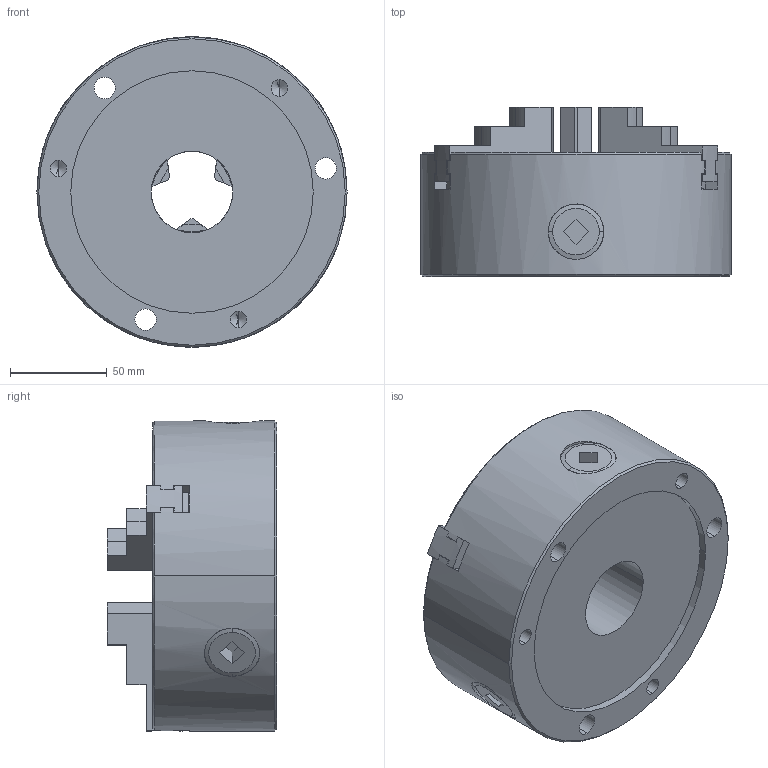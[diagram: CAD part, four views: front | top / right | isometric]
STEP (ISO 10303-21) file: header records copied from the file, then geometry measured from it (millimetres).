
FILE_DESCRIPTION (( 'STEP AP203' ), '1' );
FILE_NAME ('IUGO160-Spannfutter.STEP', '2019-09-10T14:21:20', ( '' ), ( '' ), 'SwSTEP 2.0', 'SolidWorks 2019', '' );
FILE_SCHEMA (( 'CONFIG_CONTROL_DESIGN' ));
Length unit declared in the file: millimetre
Products named in the file (3): Spannbacken_IUGO160; IUGO160-Spannfutter; Grundkörpur_IUGO160
Assembly tree (4 placements, depth 2):
  IUGO160-Spannfutter
    Grundkörpur_IUGO160
    Spannbacken_IUGO160  x3
Bounding box: 160 x 87.3 x 160 mm (x, y, z)
Volume: 1155475.1 mm3; surface area: 121838.1 mm2
Topology: 4 solids, 4 shells, 285 faces, 794 edges, 520 vertices
Faces by surface type: plane 164, cylinder 99, cone 22
Entity records: 5982 total; most frequent: CARTESIAN_POINT 1257, DIRECTION 948, ORIENTED_EDGE 904, EDGE_CURVE 452, AXIS2_PLACEMENT_3D 338, VERTEX_POINT 296, LINE 272, VECTOR 272
